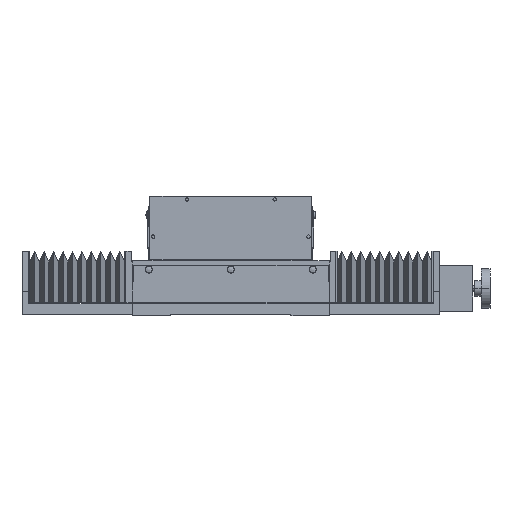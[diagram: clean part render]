
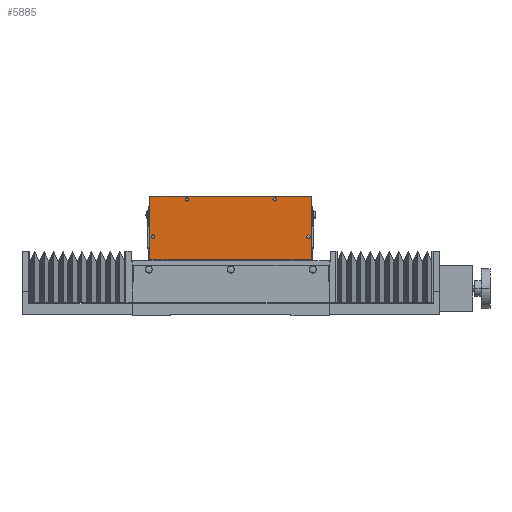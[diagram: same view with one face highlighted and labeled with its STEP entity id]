
A CAD part, top view. The second image highlights one B-rep face of the part: STEP entity #5885.
In plain terms, the highlighted planar face has unit normal (0, 0, 1).
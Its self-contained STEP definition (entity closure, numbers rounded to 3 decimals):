
#5780 = VERTEX_POINT ( 'NONE', #16642 ) ;
#5801 = EDGE_CURVE ( 'NONE', #5833, #5834, #16580, .T. ) ;
#5818 = ORIENTED_EDGE ( 'NONE', *, *, #5819, .T. ) ;
#5819 = EDGE_CURVE ( 'NONE', #6116, #6115, #16754, .T. ) ;
#5820 = ORIENTED_EDGE ( 'NONE', *, *, #6108, .T. ) ;
#5821 = EDGE_LOOP ( 'NONE', ( #5822, #5824 ) ) ;
#5822 = ORIENTED_EDGE ( 'NONE', *, *, #5823, .T. ) ;
#5823 = EDGE_CURVE ( 'NONE', #5848, #5847, #16773, .T. ) ;
#5824 = ORIENTED_EDGE ( 'NONE', *, *, #5846, .T. ) ;
#5825 = EDGE_LOOP ( 'NONE', ( #5826, #5828 ) ) ;
#5826 = ORIENTED_EDGE ( 'NONE', *, *, #5827, .T. ) ;
#5827 = EDGE_CURVE ( 'NONE', #5780, #5875, #16767, .T. ) ;
#5828 = ORIENTED_EDGE ( 'NONE', *, *, #5874, .T. ) ;
#5829 = EDGE_LOOP ( 'NONE', ( #6078, #6080 ) ) ;
#5833 = VERTEX_POINT ( 'NONE', #16897 ) ;
#5834 = VERTEX_POINT ( 'NONE', #16896 ) ;
#5846 = EDGE_CURVE ( 'NONE', #5847, #5848, #16890, .T. ) ;
#5847 = VERTEX_POINT ( 'NONE', #16879 ) ;
#5848 = VERTEX_POINT ( 'NONE', #16878 ) ;
#5874 = EDGE_CURVE ( 'NONE', #5875, #5780, #16831, .T. ) ;
#5875 = VERTEX_POINT ( 'NONE', #16827 ) ;
#5885 = ADVANCED_FACE ( 'NONE', ( #16824, #16819, #16818, #16817, #16816 ), #16814, .T. ) ;
#5886 = EDGE_LOOP ( 'NONE', ( #5818, #5820 ) ) ;
#6034 = EDGE_CURVE ( 'NONE', #7074, #7065, #17038, .T. ) ;
#6035 = ORIENTED_EDGE ( 'NONE', *, *, #7115, .F. ) ;
#6036 = ORIENTED_EDGE ( 'NONE', *, *, #10922, .F. ) ;
#6078 = ORIENTED_EDGE ( 'NONE', *, *, #6079, .T. ) ;
#6079 = EDGE_CURVE ( 'NONE', #5834, #5833, #17317, .T. ) ;
#6080 = ORIENTED_EDGE ( 'NONE', *, *, #5801, .T. ) ;
#6081 = EDGE_LOOP ( 'NONE', ( #6082, #6083, #6035, #6036 ) ) ;
#6082 = ORIENTED_EDGE ( 'NONE', *, *, #7071, .F. ) ;
#6083 = ORIENTED_EDGE ( 'NONE', *, *, #6034, .F. ) ;
#6108 = EDGE_CURVE ( 'NONE', #6115, #6116, #17262, .T. ) ;
#6115 = VERTEX_POINT ( 'NONE', #17272 ) ;
#6116 = VERTEX_POINT ( 'NONE', #17271 ) ;
#7065 = VERTEX_POINT ( 'NONE', #18894 ) ;
#7071 = EDGE_CURVE ( 'NONE', #7065, #7110, #18893, .T. ) ;
#7073 = VERTEX_POINT ( 'NONE', #18885 ) ;
#7074 = VERTEX_POINT ( 'NONE', #18884 ) ;
#7110 = VERTEX_POINT ( 'NONE', #19100 ) ;
#7115 = EDGE_CURVE ( 'NONE', #7073, #7074, #19182, .T. ) ;
#10922 = EDGE_CURVE ( 'NONE', #7110, #7073, #25074, .T. ) ;
#16577 = DIRECTION ( 'NONE',  ( -1., 0., 0. ) ) ;
#16578 = DIRECTION ( 'NONE',  ( 0., 0., -1. ) ) ;
#16579 = AXIS2_PLACEMENT_3D ( 'NONE', #16584, #16578, #16577 ) ;
#16580 = CIRCLE ( 'NONE', #16579, 1.5 ) ;
#16584 = CARTESIAN_POINT ( 'NONE',  ( -40., 106., 191. ) ) ;
#16642 = CARTESIAN_POINT ( 'NONE',  ( -72.5, 72., 191. ) ) ;
#16754 = CIRCLE ( 'NONE', #16778, 1.5 ) ;
#16764 = DIRECTION ( 'NONE',  ( -1., 0., 0. ) ) ;
#16765 = DIRECTION ( 'NONE',  ( 0., 0., -1. ) ) ;
#16766 = AXIS2_PLACEMENT_3D ( 'NONE', #16774, #16765, #16764 ) ;
#16767 = CIRCLE ( 'NONE', #16766, 1.5 ) ;
#16769 = DIRECTION ( 'NONE',  ( -1., 0., 0. ) ) ;
#16770 = DIRECTION ( 'NONE',  ( 0., 0., -1. ) ) ;
#16771 = CARTESIAN_POINT ( 'NONE',  ( 71., 72., 191. ) ) ;
#16772 = AXIS2_PLACEMENT_3D ( 'NONE', #16771, #16770, #16769 ) ;
#16773 = CIRCLE ( 'NONE', #16772, 1.5 ) ;
#16774 = CARTESIAN_POINT ( 'NONE',  ( -71., 72., 191. ) ) ;
#16775 = DIRECTION ( 'NONE',  ( -1., 0., 0. ) ) ;
#16776 = DIRECTION ( 'NONE',  ( 0., 0., -1. ) ) ;
#16777 = CARTESIAN_POINT ( 'NONE',  ( 40., 106., 191. ) ) ;
#16778 = AXIS2_PLACEMENT_3D ( 'NONE', #16777, #16776, #16775 ) ;
#16807 = DIRECTION ( 'NONE',  ( 1., 0., 0. ) ) ;
#16808 = DIRECTION ( 'NONE',  ( 0., 0., 1. ) ) ;
#16809 = AXIS2_PLACEMENT_3D ( 'NONE', #16815, #16808, #16807 ) ;
#16814 = PLANE ( 'NONE',  #16809 ) ;
#16815 = CARTESIAN_POINT ( 'NONE',  ( 74., 109., 191. ) ) ;
#16816 = FACE_OUTER_BOUND ( 'NONE', #6081, .T. ) ;
#16817 = FACE_BOUND ( 'NONE', #5829, .T. ) ;
#16818 = FACE_BOUND ( 'NONE', #5825, .T. ) ;
#16819 = FACE_BOUND ( 'NONE', #5821, .T. ) ;
#16824 = FACE_BOUND ( 'NONE', #5886, .T. ) ;
#16827 = CARTESIAN_POINT ( 'NONE',  ( -69.5, 72., 191. ) ) ;
#16828 = DIRECTION ( 'NONE',  ( -1., 0., 0. ) ) ;
#16829 = DIRECTION ( 'NONE',  ( 0., 0., -1. ) ) ;
#16830 = AXIS2_PLACEMENT_3D ( 'NONE', #16836, #16829, #16828 ) ;
#16831 = CIRCLE ( 'NONE', #16830, 1.5 ) ;
#16836 = CARTESIAN_POINT ( 'NONE',  ( -71., 72., 191. ) ) ;
#16878 = CARTESIAN_POINT ( 'NONE',  ( 69.5, 72., 191. ) ) ;
#16879 = CARTESIAN_POINT ( 'NONE',  ( 72.5, 72., 191. ) ) ;
#16880 = DIRECTION ( 'NONE',  ( -1., 0., 0. ) ) ;
#16881 = DIRECTION ( 'NONE',  ( 0., 0., -1. ) ) ;
#16882 = CARTESIAN_POINT ( 'NONE',  ( 71., 72., 191. ) ) ;
#16883 = AXIS2_PLACEMENT_3D ( 'NONE', #16882, #16881, #16880 ) ;
#16890 = CIRCLE ( 'NONE', #16883, 1.5 ) ;
#16896 = CARTESIAN_POINT ( 'NONE',  ( -41.5, 106., 191. ) ) ;
#16897 = CARTESIAN_POINT ( 'NONE',  ( -38.5, 106., 191. ) ) ;
#17035 = DIRECTION ( 'NONE',  ( 1., 0., 0. ) ) ;
#17036 = VECTOR ( 'NONE', #17035, 1000. ) ;
#17037 = CARTESIAN_POINT ( 'NONE',  ( 74., 109., 191. ) ) ;
#17038 = LINE ( 'NONE', #17037, #17036 ) ;
#17258 = DIRECTION ( 'NONE',  ( -1., 0., 0. ) ) ;
#17259 = DIRECTION ( 'NONE',  ( 0., 0., -1. ) ) ;
#17260 = CARTESIAN_POINT ( 'NONE',  ( 40., 106., 191. ) ) ;
#17261 = AXIS2_PLACEMENT_3D ( 'NONE', #17260, #17259, #17258 ) ;
#17262 = CIRCLE ( 'NONE', #17261, 1.5 ) ;
#17271 = CARTESIAN_POINT ( 'NONE',  ( 38.5, 106., 191. ) ) ;
#17272 = CARTESIAN_POINT ( 'NONE',  ( 41.5, 106., 191. ) ) ;
#17314 = DIRECTION ( 'NONE',  ( -1., 0., 0. ) ) ;
#17315 = DIRECTION ( 'NONE',  ( 0., 0., -1. ) ) ;
#17316 = AXIS2_PLACEMENT_3D ( 'NONE', #17321, #17315, #17314 ) ;
#17317 = CIRCLE ( 'NONE', #17316, 1.5 ) ;
#17321 = CARTESIAN_POINT ( 'NONE',  ( -40., 106., 191. ) ) ;
#18884 = CARTESIAN_POINT ( 'NONE',  ( -74., 109., 191. ) ) ;
#18885 = CARTESIAN_POINT ( 'NONE',  ( -74., 51., 191. ) ) ;
#18890 = DIRECTION ( 'NONE',  ( 0., -1., 0. ) ) ;
#18891 = VECTOR ( 'NONE', #18890, 1000. ) ;
#18892 = CARTESIAN_POINT ( 'NONE',  ( 74., 51., 191. ) ) ;
#18893 = LINE ( 'NONE', #18892, #18891 ) ;
#18894 = CARTESIAN_POINT ( 'NONE',  ( 74., 109., 191. ) ) ;
#19100 = CARTESIAN_POINT ( 'NONE',  ( 74., 51., 191. ) ) ;
#19101 = DIRECTION ( 'NONE',  ( 0., 1., 0. ) ) ;
#19102 = VECTOR ( 'NONE', #19101, 1000. ) ;
#19103 = CARTESIAN_POINT ( 'NONE',  ( -74., 51., 191. ) ) ;
#19182 = LINE ( 'NONE', #19103, #19102 ) ;
#25072 = DIRECTION ( 'NONE',  ( -1., 0., 0. ) ) ;
#25073 = CARTESIAN_POINT ( 'NONE',  ( 74., 51., 191. ) ) ;
#25074 = LINE ( 'NONE', #25073, #25075 ) ;
#25075 = VECTOR ( 'NONE', #25072, 1000. ) ;
